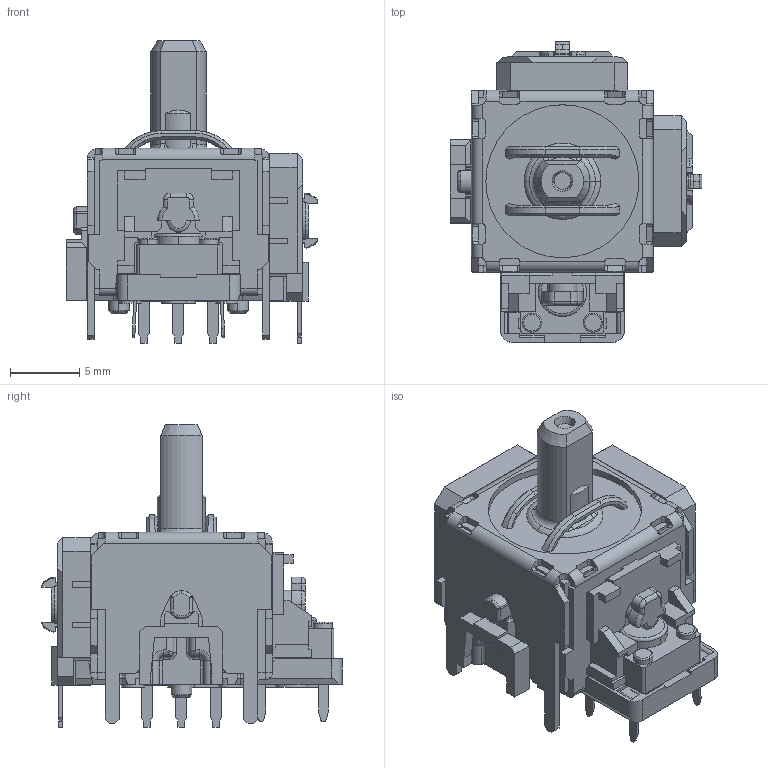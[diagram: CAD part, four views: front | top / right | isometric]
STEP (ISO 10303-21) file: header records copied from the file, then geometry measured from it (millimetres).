
FILE_DESCRIPTION (( 'STEP AP214' ), '1' );
FILE_NAME ('589D593E-7996-46A4-A04C-FAD364F4B80C.STEP', '2025-11-10T22:05:05', ( '' ), ( '' ), 'SwSTEP 2.0', 'SolidWorks 2022', '' );
FILE_SCHEMA (( 'AUTOMOTIVE_DESIGN' ));
Length unit declared in the file: millimetre
Products named in the file (1): 589D593E-7996-46A4-A04C-FAD364F4B80C
Bounding box: 18.19 x 21.68 x 21.85 mm (x, y, z)
Volume: 2568.8 mm3; surface area: 2149.9 mm2
Topology: 1 solids, 31 shells, 1735 faces, 4702 edges, 3040 vertices
Faces by surface type: plane 1121, cylinder 486, torus 49, cone 48, bspline 19, sphere 12
Entity records: 66339 total; most frequent: CARTESIAN_POINT 11957, ORIENTED_EDGE 9382, DIRECTION 8964, EDGE_CURVE 4691, LINE 3346, VECTOR 3346, VERTEX_POINT 3040, AXIS2_PLACEMENT_3D 2809
